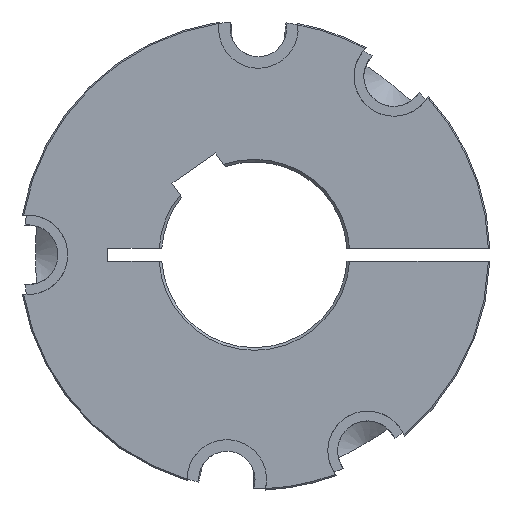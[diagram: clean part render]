
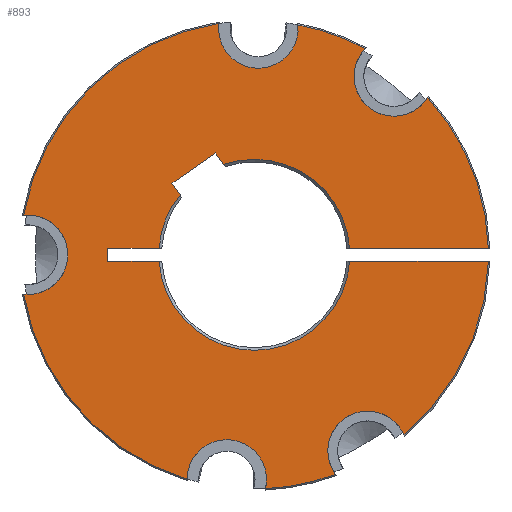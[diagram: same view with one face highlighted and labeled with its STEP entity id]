
A CAD part, left-side view. The second image highlights one B-rep face of the part: STEP entity #893.
In plain terms, the highlighted planar face has unit normal (-1, 0, 0).
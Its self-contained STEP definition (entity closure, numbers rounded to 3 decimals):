
#29=LINE('',#1464,#61);
#30=LINE('',#1468,#62);
#31=LINE('',#1470,#63);
#32=LINE('',#1472,#64);
#33=LINE('',#1476,#65);
#34=LINE('',#1480,#66);
#35=LINE('',#1484,#67);
#36=LINE('',#1488,#68);
#61=VECTOR('',#1104,52.312);
#62=VECTOR('',#1107,19.327);
#63=VECTOR('',#1108,5.);
#64=VECTOR('',#1109,19.327);
#65=VECTOR('',#1112,5.307);
#66=VECTOR('',#1115,19.98);
#67=VECTOR('',#1118,5.307);
#68=VECTOR('',#1121,52.312);
#173=FACE_OUTER_BOUND('',#224,.T.);
#224=EDGE_LOOP('',(#613,#614,#615,#616,#617,#618,#619,#620,#621,#622,#623,
#624,#625,#626,#627,#628,#629,#630,#631,#632,#633,#634,#635,#636));
#272=CIRCLE('',#945,15.);
#278=CIRCLE('',#954,15.);
#281=CIRCLE('',#959,88.26);
#282=CIRCLE('',#961,15.);
#283=CIRCLE('',#962,88.26);
#284=CIRCLE('',#963,36.);
#285=CIRCLE('',#964,36.);
#286=CIRCLE('',#965,0.01);
#287=CIRCLE('',#966,0.01);
#288=CIRCLE('',#967,36.);
#289=CIRCLE('',#968,88.26);
#290=CIRCLE('',#969,15.);
#291=CIRCLE('',#970,88.26);
#292=CIRCLE('',#971,88.26);
#293=CIRCLE('',#972,15.);
#294=CIRCLE('',#973,88.26);
#337=VERTEX_POINT('',#1330);
#339=VERTEX_POINT('',#1344);
#349=VERTEX_POINT('',#1395);
#351=VERTEX_POINT('',#1409);
#357=VERTEX_POINT('',#1452);
#358=VERTEX_POINT('',#1459);
#359=VERTEX_POINT('',#1461);
#360=VERTEX_POINT('',#1463);
#361=VERTEX_POINT('',#1465);
#362=VERTEX_POINT('',#1467);
#363=VERTEX_POINT('',#1469);
#364=VERTEX_POINT('',#1471);
#365=VERTEX_POINT('',#1473);
#366=VERTEX_POINT('',#1475);
#367=VERTEX_POINT('',#1477);
#368=VERTEX_POINT('',#1479);
#369=VERTEX_POINT('',#1481);
#370=VERTEX_POINT('',#1483);
#371=VERTEX_POINT('',#1485);
#372=VERTEX_POINT('',#1487);
#373=VERTEX_POINT('',#1489);
#374=VERTEX_POINT('',#1491);
#375=VERTEX_POINT('',#1494);
#376=VERTEX_POINT('',#1496);
#438=EDGE_CURVE('',#337,#339,#272,.T.);
#452=EDGE_CURVE('',#349,#351,#278,.T.);
#460=EDGE_CURVE('',#357,#339,#281,.T.);
#461=EDGE_CURVE('',#357,#358,#282,.T.);
#462=EDGE_CURVE('',#359,#358,#283,.T.);
#463=EDGE_CURVE('',#359,#360,#29,.T.);
#464=EDGE_CURVE('',#360,#361,#284,.T.);
#465=EDGE_CURVE('',#361,#362,#30,.T.);
#466=EDGE_CURVE('',#362,#363,#31,.T.);
#467=EDGE_CURVE('',#363,#364,#32,.T.);
#468=EDGE_CURVE('',#364,#365,#285,.T.);
#469=EDGE_CURVE('',#365,#366,#33,.T.);
#470=EDGE_CURVE('',#366,#367,#286,.T.);
#471=EDGE_CURVE('',#367,#368,#34,.T.);
#472=EDGE_CURVE('',#368,#369,#287,.T.);
#473=EDGE_CURVE('',#369,#370,#35,.T.);
#474=EDGE_CURVE('',#370,#371,#288,.T.);
#475=EDGE_CURVE('',#371,#372,#36,.T.);
#476=EDGE_CURVE('',#373,#372,#289,.T.);
#477=EDGE_CURVE('',#373,#374,#290,.T.);
#478=EDGE_CURVE('',#349,#374,#291,.T.);
#479=EDGE_CURVE('',#375,#351,#292,.T.);
#480=EDGE_CURVE('',#375,#376,#293,.T.);
#481=EDGE_CURVE('',#337,#376,#294,.T.);
#613=ORIENTED_EDGE('',*,*,#438,.T.);
#614=ORIENTED_EDGE('',*,*,#460,.F.);
#615=ORIENTED_EDGE('',*,*,#461,.T.);
#616=ORIENTED_EDGE('',*,*,#462,.F.);
#617=ORIENTED_EDGE('',*,*,#463,.T.);
#618=ORIENTED_EDGE('',*,*,#464,.T.);
#619=ORIENTED_EDGE('',*,*,#465,.T.);
#620=ORIENTED_EDGE('',*,*,#466,.T.);
#621=ORIENTED_EDGE('',*,*,#467,.T.);
#622=ORIENTED_EDGE('',*,*,#468,.T.);
#623=ORIENTED_EDGE('',*,*,#469,.T.);
#624=ORIENTED_EDGE('',*,*,#470,.T.);
#625=ORIENTED_EDGE('',*,*,#471,.T.);
#626=ORIENTED_EDGE('',*,*,#472,.T.);
#627=ORIENTED_EDGE('',*,*,#473,.T.);
#628=ORIENTED_EDGE('',*,*,#474,.T.);
#629=ORIENTED_EDGE('',*,*,#475,.T.);
#630=ORIENTED_EDGE('',*,*,#476,.F.);
#631=ORIENTED_EDGE('',*,*,#477,.T.);
#632=ORIENTED_EDGE('',*,*,#478,.F.);
#633=ORIENTED_EDGE('',*,*,#452,.T.);
#634=ORIENTED_EDGE('',*,*,#479,.F.);
#635=ORIENTED_EDGE('',*,*,#480,.T.);
#636=ORIENTED_EDGE('',*,*,#481,.F.);
#873=PLANE('',#960);
#893=ADVANCED_FACE('',(#173),#873,.T.);
#945=AXIS2_PLACEMENT_3D('',#1349,#1068,#1069);
#954=AXIS2_PLACEMENT_3D('',#1414,#1086,#1087);
#959=AXIS2_PLACEMENT_3D('',#1457,#1096,#1097);
#960=AXIS2_PLACEMENT_3D('',#1458,#1098,#1099);
#961=AXIS2_PLACEMENT_3D('',#1460,#1100,#1101);
#962=AXIS2_PLACEMENT_3D('',#1462,#1102,#1103);
#963=AXIS2_PLACEMENT_3D('',#1466,#1105,#1106);
#964=AXIS2_PLACEMENT_3D('',#1474,#1110,#1111);
#965=AXIS2_PLACEMENT_3D('',#1478,#1113,#1114);
#966=AXIS2_PLACEMENT_3D('',#1482,#1116,#1117);
#967=AXIS2_PLACEMENT_3D('',#1486,#1119,#1120);
#968=AXIS2_PLACEMENT_3D('',#1490,#1122,#1123);
#969=AXIS2_PLACEMENT_3D('',#1492,#1124,#1125);
#970=AXIS2_PLACEMENT_3D('',#1493,#1126,#1127);
#971=AXIS2_PLACEMENT_3D('',#1495,#1128,#1129);
#972=AXIS2_PLACEMENT_3D('',#1497,#1130,#1131);
#973=AXIS2_PLACEMENT_3D('',#1498,#1132,#1133);
#1068=DIRECTION('center_axis',(1.,0.,0.));
#1069=DIRECTION('ref_axis',(0.,0.,1.));
#1086=DIRECTION('center_axis',(1.,0.,0.));
#1087=DIRECTION('ref_axis',(0.,0.,1.));
#1096=DIRECTION('center_axis',(1.,0.,0.));
#1097=DIRECTION('ref_axis',(0.,0.,-1.));
#1098=DIRECTION('center_axis',(-1.,0.,0.));
#1099=DIRECTION('ref_axis',(0.,0.,1.));
#1100=DIRECTION('center_axis',(1.,0.,0.));
#1101=DIRECTION('ref_axis',(0.,0.,1.));
#1102=DIRECTION('center_axis',(1.,0.,0.));
#1103=DIRECTION('ref_axis',(0.,0.,-1.));
#1104=DIRECTION('',(0.,1.,0.));
#1105=DIRECTION('center_axis',(1.,0.,0.));
#1106=DIRECTION('ref_axis',(0.,0.,-1.));
#1107=DIRECTION('',(0.,1.,0.));
#1108=DIRECTION('',(0.,0.,1.));
#1109=DIRECTION('',(0.,-1.,0.));
#1110=DIRECTION('center_axis',(1.,0.,0.));
#1111=DIRECTION('ref_axis',(0.,0.,-1.));
#1112=DIRECTION('',(0.,0.574,0.819));
#1113=DIRECTION('center_axis',(1.,0.,0.));
#1114=DIRECTION('ref_axis',(0.,-0.574,-0.819));
#1115=DIRECTION('',(0.,-0.819,0.574));
#1116=DIRECTION('center_axis',(1.,0.,0.));
#1117=DIRECTION('ref_axis',(0.,0.819,-0.574));
#1118=DIRECTION('',(0.,-0.574,-0.819));
#1119=DIRECTION('center_axis',(1.,0.,0.));
#1120=DIRECTION('ref_axis',(0.,0.,-1.));
#1121=DIRECTION('',(0.,-1.,0.));
#1122=DIRECTION('center_axis',(1.,0.,0.));
#1123=DIRECTION('ref_axis',(0.,0.,-1.));
#1124=DIRECTION('center_axis',(1.,0.,0.));
#1125=DIRECTION('ref_axis',(0.,0.,1.));
#1126=DIRECTION('center_axis',(1.,0.,0.));
#1127=DIRECTION('ref_axis',(0.,0.,-1.));
#1128=DIRECTION('center_axis',(1.,0.,0.));
#1129=DIRECTION('ref_axis',(0.,0.,-1.));
#1130=DIRECTION('center_axis',(1.,0.,0.));
#1131=DIRECTION('ref_axis',(0.,0.,1.));
#1132=DIRECTION('center_axis',(1.,0.,0.));
#1133=DIRECTION('ref_axis',(0.,0.,-1.));
#1330=CARTESIAN_POINT('',(-5.001,96.719,-84.526));
#1344=CARTESIAN_POINT('',(-5.001,67.121,-88.16));
#1349=CARTESIAN_POINT('Origin',(-5.001,81.72,-84.714));
#1395=CARTESIAN_POINT('',(-5.001,54.892,86.718));
#1409=CARTESIAN_POINT('',(-5.001,84.708,87.239));
#1414=CARTESIAN_POINT('Origin',(-5.001,69.829,85.337));
#1452=CARTESIAN_POINT('',(-5.001,40.735,-82.792));
#1457=CARTESIAN_POINT('Origin',(-5.001,71.318,0.));
#1458=CARTESIAN_POINT('Origin',(-5.001,159.578,0.));
#1459=CARTESIAN_POINT('',(-5.001,14.91,-67.882));
#1460=CARTESIAN_POINT('Origin',(-5.001,28.643,-73.915));
#1461=CARTESIAN_POINT('',(-5.001,-16.906,-2.5));
#1462=CARTESIAN_POINT('Origin',(-5.001,71.318,0.));
#1463=CARTESIAN_POINT('',(-5.001,35.405,-2.5));
#1464=CARTESIAN_POINT('',(-5.001,71.336,-2.5));
#1465=CARTESIAN_POINT('',(-5.001,107.231,-2.5));
#1466=CARTESIAN_POINT('Origin',(-5.001,71.318,0.));
#1467=CARTESIAN_POINT('',(-5.001,126.558,-2.5));
#1468=CARTESIAN_POINT('',(-5.001,133.405,-2.5));
#1469=CARTESIAN_POINT('',(-5.001,126.558,2.5));
#1470=CARTESIAN_POINT('',(-5.001,126.558,1.25));
#1471=CARTESIAN_POINT('',(-5.001,107.231,2.5));
#1472=CARTESIAN_POINT('',(-5.001,132.904,2.5));
#1473=CARTESIAN_POINT('',(-5.001,99.346,22.593));
#1474=CARTESIAN_POINT('Origin',(-5.001,71.318,0.));
#1475=CARTESIAN_POINT('',(-5.001,102.39,26.94));
#1476=CARTESIAN_POINT('',(-5.001,103.946,29.163));
#1477=CARTESIAN_POINT('',(-5.001,102.387,26.954));
#1478=CARTESIAN_POINT('Origin',(-5.001,102.382,26.946));
#1479=CARTESIAN_POINT('',(-5.001,86.021,38.414));
#1480=CARTESIAN_POINT('',(-5.001,119.724,14.815));
#1481=CARTESIAN_POINT('',(-5.001,86.007,38.412));
#1482=CARTESIAN_POINT('Origin',(-5.001,86.015,38.406));
#1483=CARTESIAN_POINT('',(-5.001,82.963,34.065));
#1484=CARTESIAN_POINT('',(-5.001,87.264,40.208));
#1485=CARTESIAN_POINT('',(-5.001,35.405,2.5));
#1486=CARTESIAN_POINT('Origin',(-5.001,71.318,0.));
#1487=CARTESIAN_POINT('',(-5.001,-16.906,2.5));
#1488=CARTESIAN_POINT('',(-5.001,71.086,2.5));
#1489=CARTESIAN_POINT('',(-5.001,6.012,59.371));
#1490=CARTESIAN_POINT('Origin',(-5.001,71.318,0.));
#1491=CARTESIAN_POINT('',(-5.001,29.51,77.73));
#1492=CARTESIAN_POINT('Origin',(-5.001,18.772,67.257));
#1493=CARTESIAN_POINT('Origin',(-5.001,71.318,0.));
#1494=CARTESIAN_POINT('',(-5.001,158.31,14.91));
#1495=CARTESIAN_POINT('Origin',(-5.001,71.318,0.));
#1496=CARTESIAN_POINT('',(-5.001,158.31,-14.91));
#1497=CARTESIAN_POINT('Origin',(-5.001,156.668,0.));
#1498=CARTESIAN_POINT('Origin',(-5.001,71.318,0.));
